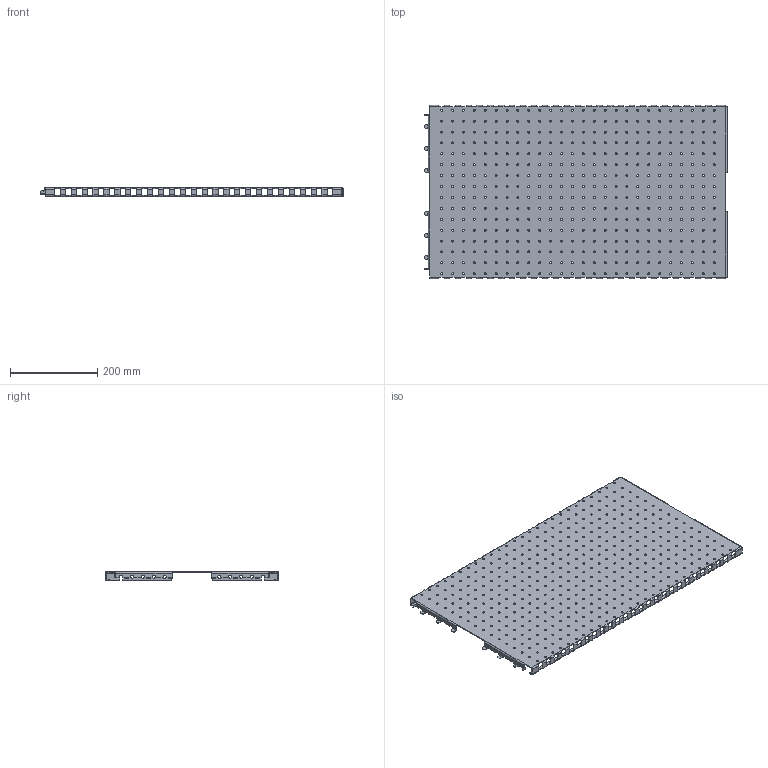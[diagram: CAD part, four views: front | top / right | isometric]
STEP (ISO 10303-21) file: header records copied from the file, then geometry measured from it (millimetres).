
FILE_DESCRIPTION(('STEP AP203'), '1');
FILE_NAME('Îãðàæäåíèå ñáîðíîé øèíû áîêîâîå ìîíòàæíîå 400õ800 ìì OptiBox M 419294 ÊÝÀÇ', '', ('UNSPECIFIED'), ('UNSPECIFIED'), 'C3D Converter', 'C3D Toolkit', '');
FILE_SCHEMA(('CONFIG_CONTROL_DESIGN'));
Length unit declared in the file: millimetre
Bounding box: 694.3 x 397 x 20 mm (x, y, z)
Volume: 581336.1 mm3; surface area: 605964.7 mm2
Topology: 1 solids, 1 shells, 1132 faces, 3178 edges, 1944 vertices
Faces by surface type: cylinder 678, plane 454
Full cylindrical faces by diameter (mm): 4.6 x416, 7.3 x8
Entity records: 36170 total; most frequent: DIRECTION 6376, CARTESIAN_POINT 5831, ORIENTED_EDGE 5508, EDGE_CURVE 2754, AXIS2_PLACEMENT_3D 2489, EDGE_LOOP 2404, VERTEX_POINT 1944, FACE_BOUND 1556
